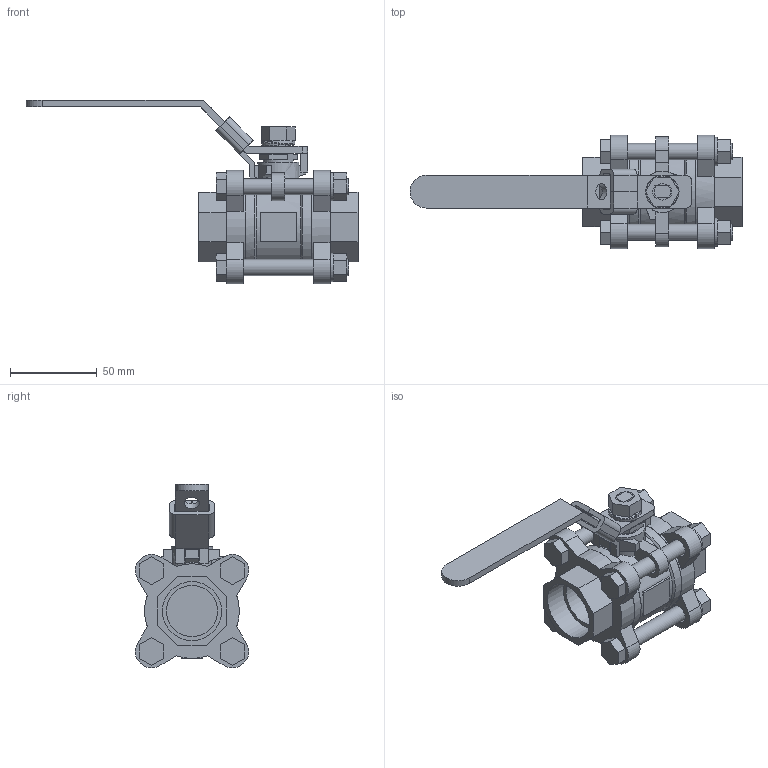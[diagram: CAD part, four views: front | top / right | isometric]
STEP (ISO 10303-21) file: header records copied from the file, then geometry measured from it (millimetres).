
FILE_DESCRIPTION((' '),'2;1');
FILE_NAME('N:\Technical Support\Private\Jomar Valve CAD\Ball Valves\CS and SS\1000N-4B\Socket Weld\1.0 S-CS[SS]-1000N-4B (500-405 [500-345])FusionCopy.stp.step','2017-05-25T16:35:22',(' '),(' '),' ','ACIS',' ');
FILE_SCHEMA(('CONFIG_CONTROL_DESIGN'));
Length unit declared in the file: inch
Products named in the file (22): N:\Technical Support\Private\Jomar Valve CAD\Ball Valves\CS and SS\1000N-4B\Socket Weld\1.0 S-CS[SS]-1000N-4B (500-405 [500-345])FusionCopy.stp.step; Body1; Body2; Body3; Body4; Body5; Body6; Body7; Body8; Body9; Body10; Body11; Body12; Body13; Body14; Body15; Body16; Body17; Body18; Body19; Body20; Body21
Assembly tree (21 placements, depth 2):
  N:\Technical Support\Private\Jomar Valve CAD\Ball Valves\CS and SS\1000N-4B\Socket Weld\1.0 S-CS[SS]-1000N-4B (500-405 [500-345])FusionCopy.stp.step
    Body1
    Body2
    Body3
    Body4
    Body5
    Body6
    Body7
    Body8
    Body9
    Body10
    Body11
    Body12
    Body13
    Body14
    Body15
    Body16
    Body17
    Body18
    Body19
    Body20
    Body21
Bounding box: 191.52 x 65.39 x 105.88 mm (x, y, z)
Volume: 206672 mm3; surface area: 71907.7 mm2
Topology: 21 solids, 21 shells, 330 faces, 806 edges, 530 vertices
Faces by surface type: plane 152, bspline 116, cylinder 43, cone 11, torus 8
Full cylindrical faces by diameter (mm): 8.001 x2, 9.017 x1, 9.347 x2, 9.525 x1, 10.033 x2, 10.922 x6, 11.963 x2, 16.383 x2, 17.475 x1, 29.515 x1, 34.036 x1, 54.356 x1, 54.61 x1
Entity records: 12997 total; most frequent: CARTESIAN_POINT 2385, ORIENTED_EDGE 1514, DIRECTION 1466, EDGE_CURVE 757, VECTOR 542, LINE 542, VERTEX_POINT 521, AXIS2_PLACEMENT_3D 462
